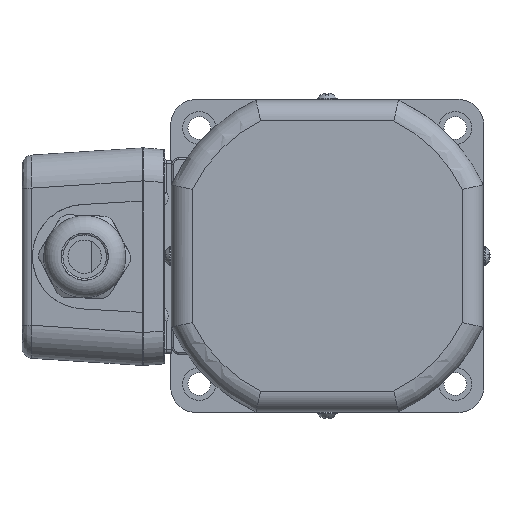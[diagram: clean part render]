
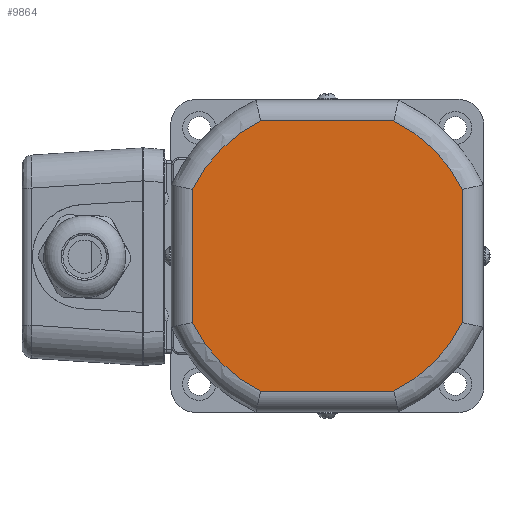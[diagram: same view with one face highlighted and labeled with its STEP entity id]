
A CAD part, left-side view. The second image highlights one B-rep face of the part: STEP entity #9864.
In plain terms, the highlighted planar face has unit normal (-1, 0, 0).
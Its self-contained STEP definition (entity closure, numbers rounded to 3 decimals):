
#9491=CARTESIAN_POINT('',(-17.8,-19.108,-38.8));
#9492=VERTEX_POINT('',#9491);
#9519=CARTESIAN_POINT('',(-17.8,-38.8,-19.108));
#9520=VERTEX_POINT('',#9519);
#9538=CARTESIAN_POINT('',(-17.8,0.,0.));
#9539=DIRECTION('',(1.0,0.0,0.0));
#9540=DIRECTION('',(0.0,-0.707,-0.707));
#9541=AXIS2_PLACEMENT_3D('',#9538,#9539,#9540);
#9542=CIRCLE('',#9541,43.25);
#9543=EDGE_CURVE('',#9520,#9492,#9542,.T.);
#9555=CARTESIAN_POINT('',(-17.8,-38.8,19.108));
#9556=VERTEX_POINT('',#9555);
#9574=CARTESIAN_POINT('',(-17.8,-38.8,19.108));
#9575=DIRECTION('',(0.0,0.0,-1.0));
#9576=VECTOR('',#9575,38.216);
#9577=LINE('',#9574,#9576);
#9578=EDGE_CURVE('',#9556,#9520,#9577,.T.);
#9597=CARTESIAN_POINT('',(-17.8,19.108,-38.8));
#9598=VERTEX_POINT('',#9597);
#9623=CARTESIAN_POINT('',(-17.8,-19.108,-38.8));
#9624=DIRECTION('',(0.0,1.0,0.0));
#9625=VECTOR('',#9624,38.216);
#9626=LINE('',#9623,#9625);
#9627=EDGE_CURVE('',#9492,#9598,#9626,.T.);
#9637=CARTESIAN_POINT('',(-17.8,-19.108,38.8));
#9638=VERTEX_POINT('',#9637);
#9656=CARTESIAN_POINT('',(-17.8,0.,0.));
#9657=DIRECTION('',(1.0,0.0,0.0));
#9658=DIRECTION('',(0.0,-0.707,0.707));
#9659=AXIS2_PLACEMENT_3D('',#9656,#9657,#9658);
#9660=CIRCLE('',#9659,43.25);
#9661=EDGE_CURVE('',#9638,#9556,#9660,.T.);
#9679=CARTESIAN_POINT('',(-17.8,38.8,-19.108));
#9680=VERTEX_POINT('',#9679);
#9706=CARTESIAN_POINT('',(-17.8,0.,0.));
#9707=DIRECTION('',(1.,0.0,0.0));
#9708=DIRECTION('',(0.0,0.707,-0.707));
#9709=AXIS2_PLACEMENT_3D('',#9706,#9707,#9708);
#9710=CIRCLE('',#9709,43.25);
#9711=EDGE_CURVE('',#9598,#9680,#9710,.T.);
#9721=CARTESIAN_POINT('',(-17.8,19.108,38.8));
#9722=VERTEX_POINT('',#9721);
#9740=CARTESIAN_POINT('',(-17.8,19.108,38.8));
#9741=DIRECTION('',(0.0,-1.0,0.0));
#9742=VECTOR('',#9741,38.216);
#9743=LINE('',#9740,#9742);
#9744=EDGE_CURVE('',#9722,#9638,#9743,.T.);
#9756=CARTESIAN_POINT('',(-17.8,38.8,19.108));
#9757=VERTEX_POINT('',#9756);
#9777=CARTESIAN_POINT('',(-17.8,38.8,-19.108));
#9778=DIRECTION('',(0.0,0.0,1.0));
#9779=VECTOR('',#9778,38.216);
#9780=LINE('',#9777,#9779);
#9781=EDGE_CURVE('',#9680,#9757,#9780,.T.);
#9792=CARTESIAN_POINT('',(-17.8,0.,0.));
#9793=DIRECTION('',(1.0,0.0,0.0));
#9794=DIRECTION('',(0.0,0.707,0.707));
#9795=AXIS2_PLACEMENT_3D('',#9792,#9793,#9794);
#9796=CIRCLE('',#9795,43.25);
#9797=EDGE_CURVE('',#9757,#9722,#9796,.T.);
#9849=CARTESIAN_POINT('',(-17.8,0.,0.));
#9850=DIRECTION('',(1.0,0.0,0.0));
#9851=DIRECTION('',(0.0,0.0,-1.0));
#9852=AXIS2_PLACEMENT_3D('',#9849,#9850,#9851);
#9853=PLANE('',#9852);
#9854=ORIENTED_EDGE('',*,*,#9781,.F.);
#9855=ORIENTED_EDGE('',*,*,#9711,.F.);
#9856=ORIENTED_EDGE('',*,*,#9627,.F.);
#9857=ORIENTED_EDGE('',*,*,#9543,.F.);
#9858=ORIENTED_EDGE('',*,*,#9578,.F.);
#9859=ORIENTED_EDGE('',*,*,#9661,.F.);
#9860=ORIENTED_EDGE('',*,*,#9744,.F.);
#9861=ORIENTED_EDGE('',*,*,#9797,.F.);
#9862=EDGE_LOOP('',(#9854,#9855,#9856,#9857,#9858,#9859,#9860,#9861));
#9863=FACE_OUTER_BOUND('',#9862,.T.);
#9864=ADVANCED_FACE('',(#9863),#9853,.F.);
